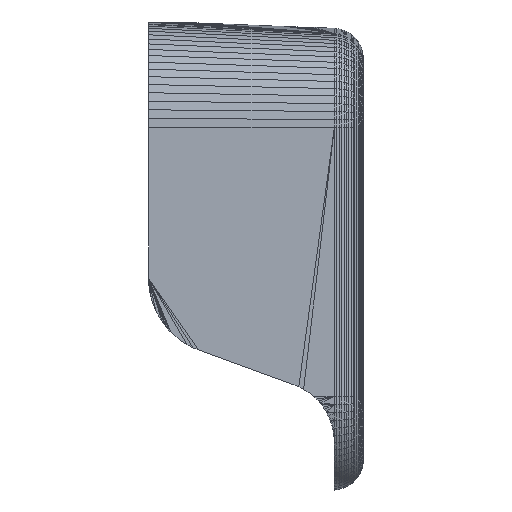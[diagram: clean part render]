
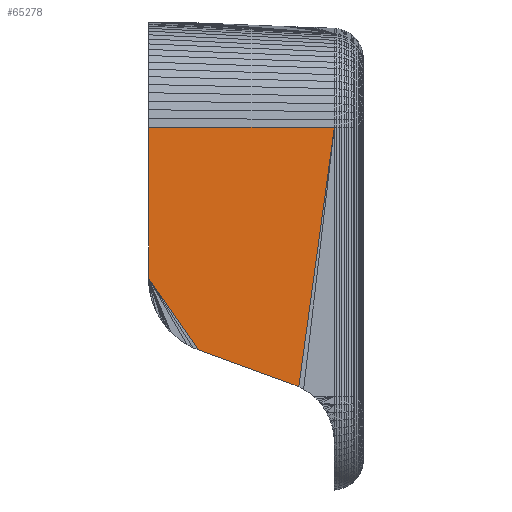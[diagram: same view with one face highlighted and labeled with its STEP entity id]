
A CAD part, front view. The second image highlights one B-rep face of the part: STEP entity #65278.
In plain terms, the highlighted planar face has unit normal (0.052, -0.999, 0).
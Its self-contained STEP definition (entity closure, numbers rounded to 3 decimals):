
#438 = EDGE_LOOP ( 'NONE', ( #113527, #112912, #87347, #21297, #56573, #62213 ) ) ;
#2776 = CARTESIAN_POINT ( 'NONE',  ( 66.709, -12.199, 35.065 ) ) ;
#17264 = LINE ( 'NONE', #50777, #22580 ) ;
#17979 = EDGE_CURVE ( 'NONE', #48997, #20193, #17264, .T. ) ;
#20193 = VERTEX_POINT ( 'NONE', #52939 ) ;
#21297 = ORIENTED_EDGE ( 'NONE', *, *, #17979, .T. ) ;
#22580 = VECTOR ( 'NONE', #60166, 1000. ) ;
#31123 = CARTESIAN_POINT ( 'NONE',  ( 61.436, -12.475, 1.518 ) ) ;
#31837 = LINE ( 'NONE', #58267, #91134 ) ;
#37332 = VECTOR ( 'NONE', #57257, 1000. ) ;
#38185 = VECTOR ( 'NONE', #41135, 1000. ) ;
#39060 = CARTESIAN_POINT ( 'NONE',  ( 42.5, -13.467, 15.412 ) ) ;
#39843 = VERTEX_POINT ( 'NONE', #101736 ) ;
#41135 = DIRECTION ( 'NONE',  ( 0., 0., -1. ) ) ;
#45553 = VECTOR ( 'NONE', #66937, 1000. ) ;
#46065 = VERTEX_POINT ( 'NONE', #84774 ) ;
#48997 = VERTEX_POINT ( 'NONE', #108820 ) ;
#49026 = LINE ( 'NONE', #39060, #37332 ) ;
#49934 = VECTOR ( 'NONE', #87192, 1000. ) ;
#50777 = CARTESIAN_POINT ( 'NONE',  ( 49.08, -13.123, 6.015 ) ) ;
#52939 = CARTESIAN_POINT ( 'NONE',  ( 61.436, -12.475, 1.518 ) ) ;
#56573 = ORIENTED_EDGE ( 'NONE', *, *, #70761, .T. ) ;
#57257 = DIRECTION ( 'NONE',  ( 0.573, 0.03, -0.819 ) ) ;
#57419 = CARTESIAN_POINT ( 'NONE',  ( 66.709, -12.199, 35.065 ) ) ;
#57609 = LINE ( 'NONE', #85214, #38185 ) ;
#58267 = CARTESIAN_POINT ( 'NONE',  ( 66.709, -12.199, 35.065 ) ) ;
#60166 = DIRECTION ( 'NONE',  ( 0.939, 0.049, -0.342 ) ) ;
#62213 = ORIENTED_EDGE ( 'NONE', *, *, #102003, .F. ) ;
#65278 = ADVANCED_FACE ( 'NONE', ( #88050 ), #71561, .T. ) ;
#65843 = EDGE_CURVE ( 'NONE', #74088, #48997, #49026, .T. ) ;
#66349 = LINE ( 'NONE', #31123, #45553 ) ;
#66937 = DIRECTION ( 'NONE',  ( 0.923, 0.048, -0.382 ) ) ;
#70761 = EDGE_CURVE ( 'NONE', #20193, #39843, #66349, .T. ) ;
#71561 = PLANE ( 'NONE',  #85956 ) ;
#74088 = VERTEX_POINT ( 'NONE', #109129 ) ;
#77195 = LINE ( 'NONE', #86023, #49934 ) ;
#77800 = EDGE_CURVE ( 'NONE', #46065, #104416, #77195, .T. ) ;
#84774 = CARTESIAN_POINT ( 'NONE',  ( 42.5, -13.467, 35.065 ) ) ;
#85214 = CARTESIAN_POINT ( 'NONE',  ( 42.5, -13.467, 1.518 ) ) ;
#85956 = AXIS2_PLACEMENT_3D ( 'NONE', #2776, #89801, #110287 ) ;
#86023 = CARTESIAN_POINT ( 'NONE',  ( 66.712, -12.199, 35.065 ) ) ;
#87192 = DIRECTION ( 'NONE',  ( 0.999, 0.052, 0. ) ) ;
#87347 = ORIENTED_EDGE ( 'NONE', *, *, #65843, .T. ) ;
#88050 = FACE_OUTER_BOUND ( 'NONE', #438, .T. ) ;
#89801 = DIRECTION ( 'NONE',  ( 0.052, -0.999, 0. ) ) ;
#90193 = EDGE_CURVE ( 'NONE', #46065, #74088, #57609, .T. ) ;
#91134 = VECTOR ( 'NONE', #112891, 1000. ) ;
#101736 = CARTESIAN_POINT ( 'NONE',  ( 62.081, -12.441, 1.25 ) ) ;
#102003 = EDGE_CURVE ( 'NONE', #104416, #39843, #31837, .T. ) ;
#104416 = VERTEX_POINT ( 'NONE', #57419 ) ;
#108820 = CARTESIAN_POINT ( 'NONE',  ( 49.08, -13.123, 6.015 ) ) ;
#109129 = CARTESIAN_POINT ( 'NONE',  ( 42.5, -13.467, 15.412 ) ) ;
#110287 = DIRECTION ( 'NONE',  ( 0.999, 0.052, 0. ) ) ;
#112891 = DIRECTION ( 'NONE',  ( -0.136, -0.007, -0.991 ) ) ;
#112912 = ORIENTED_EDGE ( 'NONE', *, *, #90193, .T. ) ;
#113527 = ORIENTED_EDGE ( 'NONE', *, *, #77800, .F. ) ;
